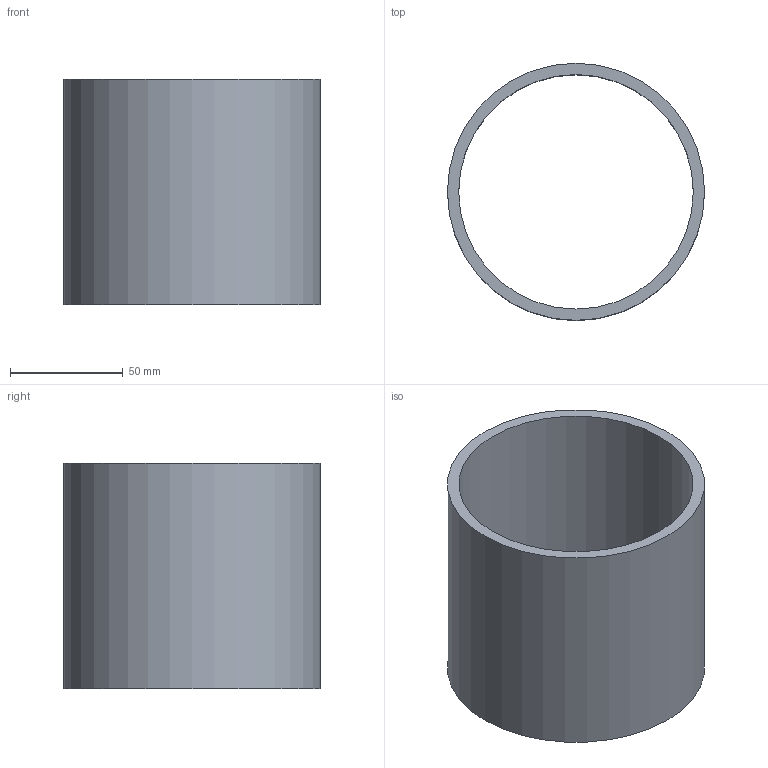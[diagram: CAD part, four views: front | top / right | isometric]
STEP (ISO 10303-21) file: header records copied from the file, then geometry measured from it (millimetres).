
FILE_DESCRIPTION(('Open CASCADE Model'),'2;1');
FILE_NAME('Open CASCADE Shape Model','2026-10-15T15:10:05',('Author'),( 'Open CASCADE'),'Open CASCADE STEP processor 8.0','Open CASCADE 8.0' ,'Unknown');
FILE_SCHEMA(('AUTOMOTIVE_DESIGN { 1 0 10303 214 1 1 1 1 }'));
Length unit declared in the file: millimetre
Products named in the file (1): TOPE_GUIA_D114_ID104_L100_P05 158
Bounding box: 114 x 114 x 100 mm (x, y, z)
Volume: 171216.8 mm3; surface area: 71911.1 mm2
Topology: 1 solids, 1 shells, 4 faces, 6 edges, 4 vertices
Faces by surface type: cylinder 2, plane 2
Full cylindrical faces by diameter (mm): 104 x1, 114 x1
Entity records: 186 total; most frequent: DIRECTION 32, CARTESIAN_POINT 27, ORIENTED_EDGE 12, PCURVE 12, DEFINITIONAL_REPRESENTATION 12, LINE 10, VECTOR 10, AXIS2_PLACEMENT_3D 9
